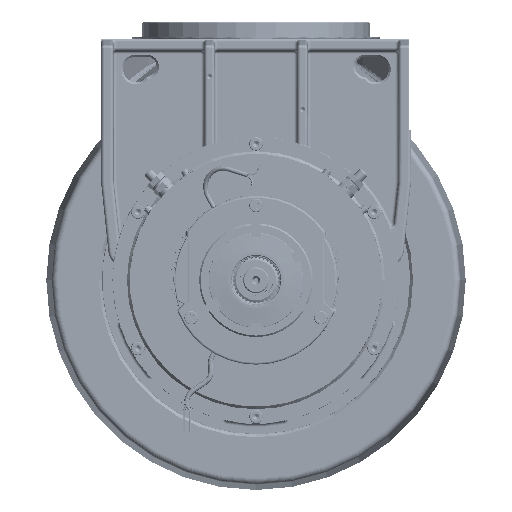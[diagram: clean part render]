
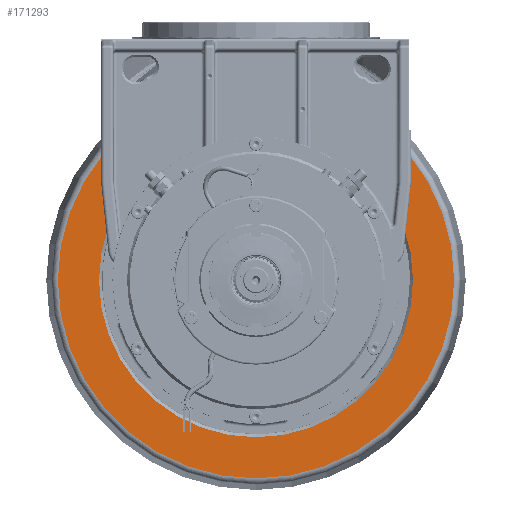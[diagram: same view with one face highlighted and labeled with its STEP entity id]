
A CAD part, front view. The second image highlights one B-rep face of the part: STEP entity #171293.
In plain terms, the highlighted planar face has unit normal (0, -1, 0).
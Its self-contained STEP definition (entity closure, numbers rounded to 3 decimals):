
#6524=FACE_BOUND('',#27811,.T.);
#9508=PLANE('',#185840);
#17837=FACE_OUTER_BOUND('',#27810,.T.);
#27810=EDGE_LOOP('',(#134050));
#27811=EDGE_LOOP('',(#134051));
#61965=CIRCLE('',#185254,191.815);
#62468=CIRCLE('',#185839,152.);
#74108=VERTEX_POINT('',#364421);
#75255=VERTEX_POINT('',#366888);
#94870=EDGE_CURVE('',#74108,#74108,#61965,.T.);
#96109=EDGE_CURVE('',#75255,#75255,#62468,.T.);
#134050=ORIENTED_EDGE('',*,*,#94870,.F.);
#134051=ORIENTED_EDGE('',*,*,#96109,.F.);
#171293=ADVANCED_FACE('',(#17837,#6524),#9508,.T.);
#185254=AXIS2_PLACEMENT_3D('',#364422,#217304,#217305);
#185839=AXIS2_PLACEMENT_3D('',#366890,#219210,#219211);
#185840=AXIS2_PLACEMENT_3D('',#366891,#219212,#219213);
#217304=DIRECTION('center_axis',(0.,1.,0.));
#217305=DIRECTION('ref_axis',(0.,0.,
1.));
#219210=DIRECTION('center_axis',(0.,-1.,0.));
#219211=DIRECTION('ref_axis',(0.,0.,-1.));
#219212=DIRECTION('center_axis',(0.,-1.,0.));
#219213=DIRECTION('ref_axis',(0.,0.,
1.));
#364421=CARTESIAN_POINT('',(0.,-88.,191.815));
#364422=CARTESIAN_POINT('Origin',(0.,-88.,
0.));
#366888=CARTESIAN_POINT('',(0.,-88.,152.));
#366890=CARTESIAN_POINT('Origin',(0.,-88.,
0.));
#366891=CARTESIAN_POINT('Origin',(0.,-88.,
153.75));
